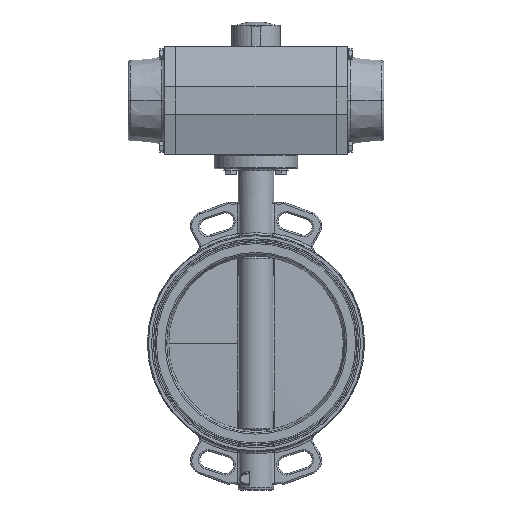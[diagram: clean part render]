
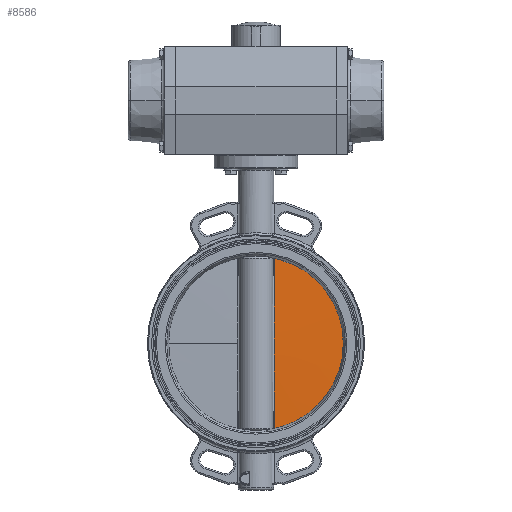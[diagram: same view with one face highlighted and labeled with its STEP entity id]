
A CAD part, front view. The second image highlights one B-rep face of the part: STEP entity #8586.
In plain terms, the highlighted conical face has half-angle 88.989 degrees and reference radius 56666.7 mm.
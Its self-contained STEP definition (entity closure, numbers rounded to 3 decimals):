
#179 = CONICAL_SURFACE ( 'NONE', #23209, 56666.667, 1.553 ) ;
#460 = VERTEX_POINT ( 'NONE', #44839 ) ;
#482 = CARTESIAN_POINT ( 'NONE',  ( -3.785, 0., 0. ) ) ;
#738 = CARTESIAN_POINT ( 'NONE',  ( -3.793, 122.034, 27.389 ) ) ;
#2803 = EDGE_CURVE ( 'NONE', #12558, #460, #42091, .T. ) ;
#3829 = CARTESIAN_POINT ( 'NONE',  ( -5.43, 20.344, 25.931 ) ) ;
#4472 = DIRECTION ( 'NONE',  ( 0., 0., 1. ) ) ;
#5017 = B_SPLINE_CURVE_WITH_KNOTS ( 'NONE', 3,
 ( #43612, #47581, #738, #28274 ),
 .UNSPECIFIED., .F., .F.,
 ( 4, 4 ),
 ( 0., 0.003 ),
 .UNSPECIFIED. ) ;
#6574 = CIRCLE ( 'NONE', #19957, 125.535 ) ;
#6751 = EDGE_CURVE ( 'NONE', #32380, #27728, #5017, .T. ) ;
#6915 = CARTESIAN_POINT ( 'NONE',  ( 994., 0., 0. ) ) ;
#6932 = CARTESIAN_POINT ( 'NONE',  ( -3.789, -122.034, 28.415 ) ) ;
#7444 = CARTESIAN_POINT ( 'NONE',  ( -4.148, 101.697, 26.285 ) ) ;
#7785 = CARTESIAN_POINT ( 'NONE',  ( -5.543, -10.168, 25.89 ) ) ;
#8586 = ADVANCED_FACE ( 'NONE', ( #26023 ), #179, .T. ) ;
#11763 = CARTESIAN_POINT ( 'NONE',  ( -5.156, -40.678, 26.016 ) ) ;
#12558 = VERTEX_POINT ( 'NONE', #28286 ) ;
#13279 = EDGE_LOOP ( 'NONE', ( #27791, #17642, #39674, #34786 ) ) ;
#14155 = CARTESIAN_POINT ( 'NONE',  ( -3.797, -122.034, 26.363 ) ) ;
#15531 = CARTESIAN_POINT ( 'NONE',  ( -3.797, 122.034, 26.363 ) ) ;
#15697 = CARTESIAN_POINT ( 'NONE',  ( -4.498, -81.357, 26.199 ) ) ;
#17642 = ORIENTED_EDGE ( 'NONE', *, *, #2803, .T. ) ;
#19661 = CARTESIAN_POINT ( 'NONE',  ( -3.797, -122.034, 26.363 ) ) ;
#19957 = AXIS2_PLACEMENT_3D ( 'NONE', #482, #28004, #4472 ) ;
#23209 = AXIS2_PLACEMENT_3D ( 'NONE', #6915, #42185, #34435 ) ;
#23425 = CARTESIAN_POINT ( 'NONE',  ( -4.498, 81.359, 26.199 ) ) ;
#26023 = FACE_OUTER_BOUND ( 'NONE', #13279, .T. ) ;
#27372 = CARTESIAN_POINT ( 'NONE',  ( -5.156, 40.683, 26.017 ) ) ;
#27728 = VERTEX_POINT ( 'NONE', #48646 ) ;
#27791 = ORIENTED_EDGE ( 'NONE', *, *, #30787, .T. ) ;
#28004 = DIRECTION ( 'NONE',  ( -1., 0., 0. ) ) ;
#28274 = CARTESIAN_POINT ( 'NONE',  ( -3.797, 122.034, 26.363 ) ) ;
#28286 = CARTESIAN_POINT ( 'NONE',  ( -3.797, -122.034, 26.363 ) ) ;
#29282 = EDGE_CURVE ( 'NONE', #460, #32380, #6574, .T. ) ;
#30787 = EDGE_CURVE ( 'NONE', #27728, #12558, #32387, .T. ) ;
#31220 = CARTESIAN_POINT ( 'NONE',  ( -3.785, 122.034, 29.44 ) ) ;
#31340 = CARTESIAN_POINT ( 'NONE',  ( -5.543, 10.175, 25.89 ) ) ;
#32380 = VERTEX_POINT ( 'NONE', #31220 ) ;
#32387 = B_SPLINE_CURVE_WITH_KNOTS ( 'NONE', 3,
 ( #15531, #7444, #23425, #50968, #27372, #3829, #31340, #7785, #35309, #11763, #39317, #15697, #43252, #19661 ),
 .UNSPECIFIED., .F., .F.,
 ( 4, 2, 2, 2, 2, 2, 4 ),
 ( 0., 0.061, 0.092, 0.122, 0.153, 0.183, 0.244 ),
 .UNSPECIFIED. ) ;
#34435 = DIRECTION ( 'NONE',  ( 0., 0., -1. ) ) ;
#34448 = CARTESIAN_POINT ( 'NONE',  ( -3.785, -122.034, 29.44 ) ) ;
#34786 = ORIENTED_EDGE ( 'NONE', *, *, #6751, .T. ) ;
#35309 = CARTESIAN_POINT ( 'NONE',  ( -5.43, -20.338, 25.931 ) ) ;
#39317 = CARTESIAN_POINT ( 'NONE',  ( -4.994, -50.848, 26.063 ) ) ;
#39674 = ORIENTED_EDGE ( 'NONE', *, *, #29282, .T. ) ;
#42091 = B_SPLINE_CURVE_WITH_KNOTS ( 'NONE', 3,
 ( #14155, #50121, #6932, #34448 ),
 .UNSPECIFIED., .F., .F.,
 ( 4, 4 ),
 ( 0., 0.003 ),
 .UNSPECIFIED. ) ;
#42185 = DIRECTION ( 'NONE',  ( 1., 0., 0. ) ) ;
#43252 = CARTESIAN_POINT ( 'NONE',  ( -4.148, -101.696, 26.285 ) ) ;
#43612 = CARTESIAN_POINT ( 'NONE',  ( -3.785, 122.034, 29.44 ) ) ;
#44839 = CARTESIAN_POINT ( 'NONE',  ( -3.785, -122.034, 29.44 ) ) ;
#47581 = CARTESIAN_POINT ( 'NONE',  ( -3.789, 122.034, 28.415 ) ) ;
#48646 = CARTESIAN_POINT ( 'NONE',  ( -3.797, 122.034, 26.363 ) ) ;
#50121 = CARTESIAN_POINT ( 'NONE',  ( -3.793, -122.034, 27.389 ) ) ;
#50968 = CARTESIAN_POINT ( 'NONE',  ( -4.994, 50.852, 26.063 ) ) ;
